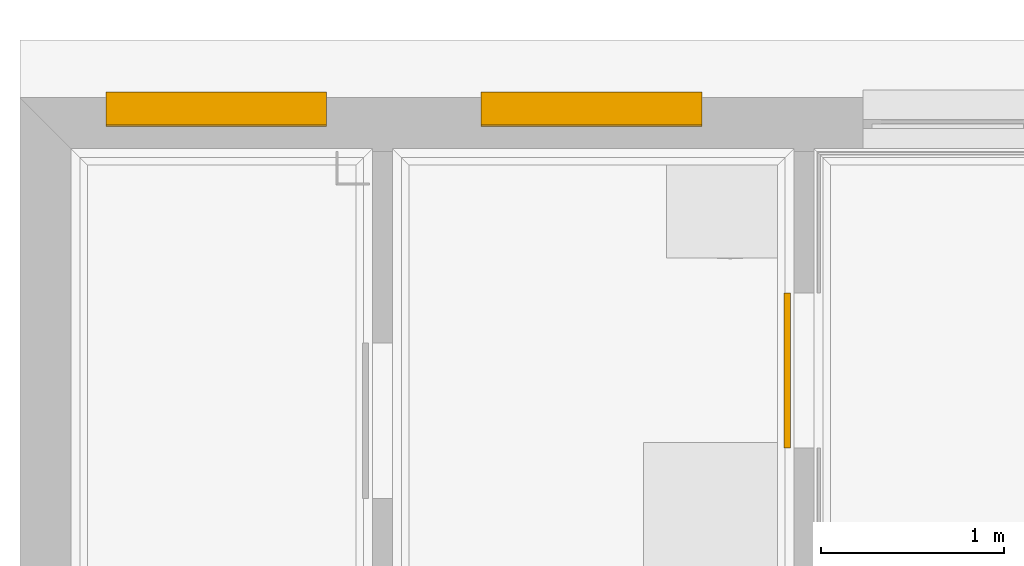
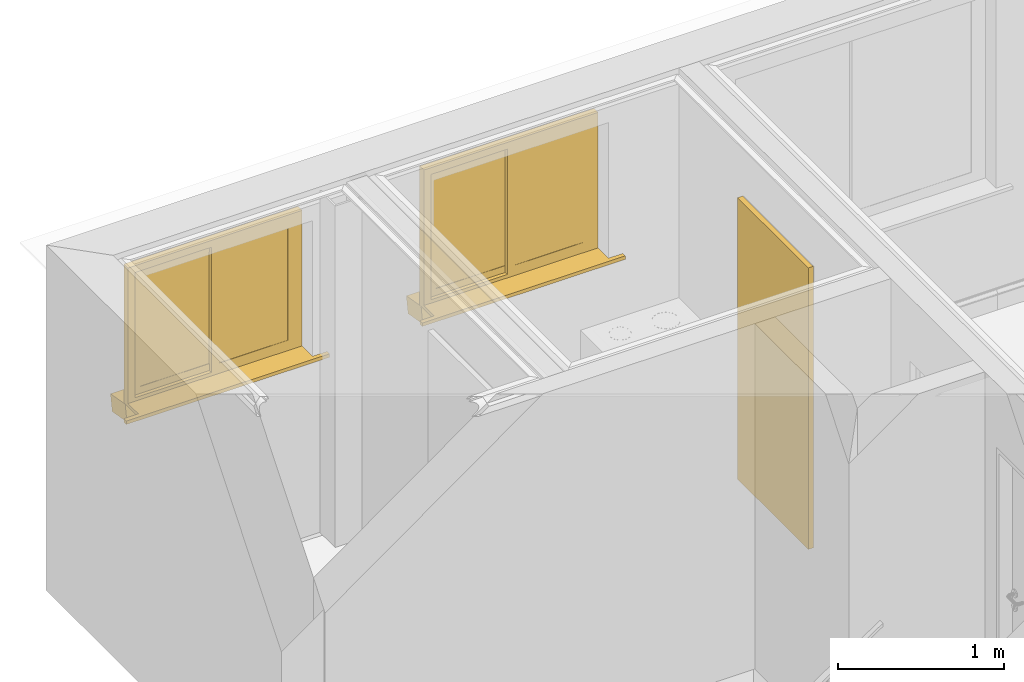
# One storey, part 6 of 18: 2 windows, 1 door.
"""IFC2X3 building model written with IfcOpenShell, lengths in millimetres."""

from ifc_helpers import new_model, entity, si_unit, converted_unit, money_unit, direction, frame, origin_with_axes, place, context, subcontext, project, spatial, faceted_brep, source, transform, mapped, material, material_list, type_object, element, save


model = new_model("IFC2X3")

# Units and contexts
model_context = context("Model", 3, precision=1e-05, world=origin_with_axes(), true_north=direction((0.0, 1.0)))
body_context = subcontext(model_context, "Body", "Model", "MODEL_VIEW")
ifc_project = project(units=[si_unit("LENGTHUNIT", "METRE", prefix="MILLI"), si_unit("AREAUNIT", "SQUARE_METRE"), si_unit("VOLUMEUNIT", "CUBIC_METRE"), converted_unit("PLANEANGLEUNIT", "DEGREE", entity("IfcPlaneAngleMeasure", 0.0174532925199), si_unit("PLANEANGLEUNIT", "RADIAN"), dimensions=[0, 0, 0, 0, 0, 0, 0]), si_unit("SOLIDANGLEUNIT", "STERADIAN"), money_unit("AUD"), si_unit("TIMEUNIT", "SECOND"), si_unit("MASSUNIT", "GRAM"), si_unit("THERMODYNAMICTEMPERATUREUNIT", "DEGREE_CELSIUS"), si_unit("LUMINOUSINTENSITYUNIT", "LUMEN")], contexts=[model_context])

# Site, building, storey
site_placement = place(None, origin_with_axes())
site = spatial("IfcSite", under=ifc_project, at=site_placement, Name="Lot 1. East Hills", CompositionType="ELEMENT")
building_placement = place(site_placement, origin_with_axes())
building = spatial("IfcBuilding", under=site, at=building_placement, Name="Proposed Units 7 & 8", CompositionType="ELEMENT")
storey_placement = place(building_placement, frame((0.0, 0.0, 5859.0), z_axis=(0.0, 0.0, 1.0), x_axis=(1.0, 0.0, 0.0)))
storey = spatial("IfcBuildingStorey", under=building, at=storey_placement, Name="Level 1", CompositionType="ELEMENT", Elevation=5859.0)

# Door
ifc_material_1 = material(Name="Empty Fill")
ifc_material_list_1 = material_list([ifc_material_1, ifc_material_1, ifc_material_1, ifc_material_1, ifc_material_1, ifc_material_1, ifc_material_1, ifc_material_1, ifc_material_1])
door_style = type_object("IfcDoorStyle", Name="D1 Sliding Ext 11", ConstructionType="NOTDEFINED", OperationType="SLIDING_TO_LEFT", ParameterTakesPrecedence=False, Sizeable=False)
shared_shape_1 = source(origin_with_axes(), body_context, "Body", "Brep", [
    faceted_brep([(-425.0, 40.0, 0.0), (425.0, 40.0, 0.0), (425.0, 5.0, 0.0), (-425.0, 5.0, 0.0), (-425.0, 40.0, 2067.0), (425.0, 40.0, 2067.0), (425.0, 5.0, 2067.0), (-425.0, 5.0, 2067.0)], [[[0, 1, 2, 3]], [[0, 4, 5, 1]], [[1, 5, 6, 2]], [[3, 2, 6, 7]], [[4, 0, 3, 7]], [[5, 4, 7, 6]]]),
])
door_placement = place(storey_placement, frame((4225.00441391, 3342.99988798, 0.0), z_axis=(0.0, 0.0, 1.0), x_axis=(0.0, 1.0, 0.0)))
element("IfcDoor", 1, at=door_placement, inside=storey, type_object=door_style, material=ifc_material_list_1, Name="11 D1 Sliding Ext 11 0.85 x 2.067 x 1 Door", OverallHeight=2067.0, OverallWidth=850.0, context=body_context, shape_type="MappedRepresentation", body=[
    mapped(shared_shape_1, transform((425.0, 0.0, 0.0))),
])

# Windows
ifc_material_2 = material(Name="air space")
ifc_material_list_2 = material_list([ifc_material_1, ifc_material_2, ifc_material_1, ifc_material_1, ifc_material_1, ifc_material_1, ifc_material_1, ifc_material_1, ifc_material_1, ifc_material_1])
window_style = type_object("IfcWindowStyle", Name="W2 Horizontal Slide 11", ConstructionType="NOTDEFINED", OperationType="DOUBLE_PANEL_VERTICAL", ParameterTakesPrecedence=False, Sizeable=False)
shared_shape_2 = source(origin_with_axes(), body_context, "Body", "Brep", [
    faceted_brep([(-605.0, -16.6666666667, 0.0), (605.0, -16.6666666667, 0.0), (605.0, 160.83778132, -31.2988233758), (-605.0, 160.83778132, -31.2988233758), (-605.0, -37.5044479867, -118.176930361), (605.0, -37.5044479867, -118.176930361), (605.0, 140.0, -149.475753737), (-605.0, 140.0, -149.475753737)], [[[0, 1, 2, 3]], [[4, 5, 1, 0]], [[1, 5, 6, 2]], [[3, 2, 6, 7]], [[0, 3, 7, 4]], [[7, 6, 5, 4]]]),
    faceted_brep([(605.0, -50.0, 0.0), (605.0, -50.0, 25.0), (605.0, -174.999998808, 25.0), (605.0, -174.999998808, 0.0), (-605.0, -50.0, 0.0), (-605.0, -50.0, 25.0), (-605.0, -174.999998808, 25.0), (-705.0, -174.999998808, 25.0), (-705.0, -204.999998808, 25.0), (705.0, -204.999998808, 25.0), (705.0, -174.999998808, 25.0), (705.0, -174.999998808, 0.0), (705.0, -204.999998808, 0.0), (-705.0, -204.999998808, 0.0), (-705.0, -174.999998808, 0.0), (-605.0, -174.999998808, 0.0)], [[[0, 1, 2, 3]], [[4, 5, 1, 0]], [[1, 5, 6, 7, 8, 9, 10, 2]], [[3, 2, 10, 11]], [[0, 3, 11, 12, 13, 14, 15, 4]], [[15, 6, 5, 4]], [[14, 7, 6, 15]], [[13, 8, 7, 14]], [[12, 9, 8, 13]], [[11, 10, 9, 12]]]),
    faceted_brep([(-555.0, 0.0, 50.0), (-555.0, 0.0, 970.0), (-555.0, -50.0, 970.0), (-555.0, -50.0, 50.0), (-605.0, 0.0, 50.0), (-605.0, 0.0, 970.0), (-605.0, -50.0, 970.0), (-605.0, -50.0, 50.0)], [[[0, 1, 2, 3]], [[0, 4, 5, 1]], [[1, 5, 6, 2]], [[3, 2, 6, 7]], [[4, 0, 3, 7]], [[5, 4, 7, 6]]]),
    faceted_brep([(605.0, 0.0, 50.0), (605.0, 0.0, 970.0), (605.0, -50.0, 970.0), (605.0, -50.0, 50.0), (555.0, 0.0, 50.0), (555.0, 0.0, 970.0), (555.0, -50.0, 970.0), (555.0, -50.0, 50.0)], [[[0, 1, 2, 3]], [[0, 4, 5, 1]], [[1, 5, 6, 2]], [[3, 2, 6, 7]], [[4, 0, 3, 7]], [[5, 4, 7, 6]]]),
    faceted_brep([(-605.0, 0.0, 0.0), (605.0, 0.0, 0.0), (605.0, -50.0, 0.0), (-605.0, -50.0, 0.0), (-605.0, 0.0, 50.0), (-555.0, 0.0, 50.0), (555.0, 0.0, 50.0), (605.0, 0.0, 50.0), (605.0, -50.0, 50.0), (555.0, -50.0, 50.0), (-555.0, -50.0, 50.0), (-605.0, -50.0, 50.0)], [[[0, 1, 2, 3]], [[0, 4, 5, 6, 7, 1]], [[1, 7, 8, 2]], [[3, 2, 8, 9, 10, 11]], [[4, 0, 3, 11]], [[5, 4, 11, 10]], [[6, 5, 10, 9]], [[7, 6, 9, 8]]]),
    faceted_brep([(-605.0, 0.0, 970.0), (-555.0, 0.0, 970.0), (-555.0, -50.0, 970.0), (-605.0, -50.0, 970.0), (-605.0, 0.0, 1020.0), (605.0, 0.0, 1020.0), (605.0, 0.0, 970.0), (555.0, 0.0, 970.0), (555.0, -50.0, 970.0), (605.0, -50.0, 970.0), (605.0, -50.0, 1020.0), (-605.0, -50.0, 1020.0)], [[[0, 1, 2, 3]], [[0, 4, 5, 6, 7, 1]], [[1, 7, 8, 2]], [[3, 2, 8, 9, 10, 11]], [[4, 0, 3, 11]], [[5, 4, 11, 10]], [[6, 5, 10, 9]], [[7, 6, 9, 8]]]),
    faceted_brep([(-505.0, 0.0, 100.0), (-505.0, 0.0, 920.0), (-505.0, -25.0, 920.0), (-505.0, -25.0, 100.0), (-555.0, 0.0, 100.0), (-555.0, 0.0, 920.0), (-555.0, -25.0, 920.0), (-555.0, -25.0, 100.0)], [[[0, 1, 2, 3]], [[0, 4, 5, 1]], [[1, 5, 6, 2]], [[3, 2, 6, 7]], [[4, 0, 3, 7]], [[5, 4, 7, 6]]]),
    faceted_brep([(25.0, 0.0, 100.0), (25.0, 0.0, 920.0), (25.0, -25.0, 920.0), (25.0, -25.0, 100.0), (-25.0, 0.0, 100.0), (-25.0, 0.0, 920.0), (-25.0, -25.0, 920.0), (-25.0, -25.0, 100.0)], [[[0, 1, 2, 3]], [[0, 4, 5, 1]], [[1, 5, 6, 2]], [[3, 2, 6, 7]], [[4, 0, 3, 7]], [[5, 4, 7, 6]]]),
    faceted_brep([(25.0, 0.0, 50.0), (25.0, 0.0, 100.0), (25.0, -25.0, 100.0), (25.0, -25.0, 50.0), (-555.0, 0.0, 50.0), (-555.0, 0.0, 100.0), (-505.0, 0.0, 100.0), (-25.0, 0.0, 100.0), (-25.0, -25.0, 100.0), (-505.0, -25.0, 100.0), (-555.0, -25.0, 100.0), (-555.0, -25.0, 50.0)], [[[0, 1, 2, 3]], [[0, 4, 5, 6, 7, 1]], [[1, 7, 8, 2]], [[3, 2, 8, 9, 10, 11]], [[4, 0, 3, 11]], [[5, 4, 11, 10]], [[6, 5, 10, 9]], [[7, 6, 9, 8]]]),
    faceted_brep([(-555.0, 0.0, 970.0), (-555.0, 0.0, 920.0), (-555.0, -25.0, 920.0), (-555.0, -25.0, 970.0), (25.0, 0.0, 970.0), (25.0, 0.0, 920.0), (-25.0, 0.0, 920.0), (-505.0, 0.0, 920.0), (-505.0, -25.0, 920.0), (-25.0, -25.0, 920.0), (25.0, -25.0, 920.0), (25.0, -25.0, 970.0)], [[[0, 1, 2, 3]], [[0, 4, 5, 6, 7, 1]], [[1, 7, 8, 2]], [[3, 2, 8, 9, 10, 11]], [[4, 0, 3, 11]], [[5, 4, 11, 10]], [[6, 5, 10, 9]], [[7, 6, 9, 8]]]),
    faceted_brep([(-505.0, -2.5, 100.0), (-25.0, -2.5, 100.0), (-25.0, -22.5, 100.0), (-505.0, -22.5, 100.0), (-505.0, -2.5, 920.0), (-25.0, -2.5, 920.0), (-25.0, -22.5, 920.0), (-505.0, -22.5, 920.0)], [[[0, 1, 2, 3]], [[0, 4, 5, 1]], [[1, 5, 6, 2]], [[3, 2, 6, 7]], [[4, 0, 3, 7]], [[5, 4, 7, 6]]]),
    faceted_brep([(25.0, -25.0, 100.0), (25.0, -25.0, 920.0), (25.0, -50.0, 920.0), (25.0, -50.0, 100.0), (-25.0, -25.0, 100.0), (-25.0, -25.0, 920.0), (-25.0, -50.0, 920.0), (-25.0, -50.0, 100.0)], [[[0, 1, 2, 3]], [[0, 4, 5, 1]], [[1, 5, 6, 2]], [[3, 2, 6, 7]], [[4, 0, 3, 7]], [[5, 4, 7, 6]]]),
    faceted_brep([(555.0, -25.0, 100.0), (555.0, -25.0, 920.0), (555.0, -50.0, 920.0), (555.0, -50.0, 100.0), (505.0, -25.0, 100.0), (505.0, -25.0, 920.0), (505.0, -50.0, 920.0), (505.0, -50.0, 100.0)], [[[0, 1, 2, 3]], [[0, 4, 5, 1]], [[1, 5, 6, 2]], [[3, 2, 6, 7]], [[4, 0, 3, 7]], [[5, 4, 7, 6]]]),
    faceted_brep([(555.0, -25.0, 50.0), (555.0, -25.0, 100.0), (555.0, -50.0, 100.0), (555.0, -50.0, 50.0), (-25.0, -25.0, 50.0), (-25.0, -25.0, 100.0), (25.0, -25.0, 100.0), (505.0, -25.0, 100.0), (505.0, -50.0, 100.0), (25.0, -50.0, 100.0), (-25.0, -50.0, 100.0), (-25.0, -50.0, 50.0)], [[[0, 1, 2, 3]], [[0, 4, 5, 6, 7, 1]], [[1, 7, 8, 2]], [[3, 2, 8, 9, 10, 11]], [[4, 0, 3, 11]], [[5, 4, 11, 10]], [[6, 5, 10, 9]], [[7, 6, 9, 8]]]),
    faceted_brep([(-25.0, -25.0, 970.0), (-25.0, -25.0, 920.0), (-25.0, -50.0, 920.0), (-25.0, -50.0, 970.0), (555.0, -25.0, 970.0), (555.0, -25.0, 920.0), (505.0, -25.0, 920.0), (25.0, -25.0, 920.0), (25.0, -50.0, 920.0), (505.0, -50.0, 920.0), (555.0, -50.0, 920.0), (555.0, -50.0, 970.0)], [[[0, 1, 2, 3]], [[0, 4, 5, 6, 7, 1]], [[1, 7, 8, 2]], [[3, 2, 8, 9, 10, 11]], [[4, 0, 3, 11]], [[5, 4, 11, 10]], [[6, 5, 10, 9]], [[7, 6, 9, 8]]]),
    faceted_brep([(25.0, -27.5, 100.0), (505.0, -27.5, 100.0), (505.0, -47.5, 100.0), (25.0, -47.5, 100.0), (25.0, -27.5, 920.0), (505.0, -27.5, 920.0), (505.0, -47.5, 920.0), (25.0, -47.5, 920.0)], [[[0, 1, 2, 3]], [[0, 4, 5, 1]], [[1, 5, 6, 2]], [[3, 2, 6, 7]], [[4, 0, 3, 7]], [[5, 4, 7, 6]]]),
])
for number, where, z_axis, x_axis, name in (
    (2, (2525.0, 5263.0, 1286.0), (0.0, 0.0, 1.0), (1.0, 0.0, 0.0), "W001 W2 Horizontal Slide 11 1.21 x 1.02 Window"),
    (3, (469.964301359, 5263.0, 1286.0), (0.0, 0.0, 1.0), (1.0, 0.0, 0.0), "W001 W2 Horizontal Slide 11 1.21 x 1.02 Window"),
):
    element("IfcWindow", number, at=place(storey_placement, frame(where, z_axis=z_axis, x_axis=x_axis)), inside=storey, type_object=window_style, material=ifc_material_list_2, Name=name, OverallHeight=1020.0, OverallWidth=1210.0, context=body_context, shape_type="MappedRepresentation", body=[
        mapped(shared_shape_2, transform((605.0, -120.0, 0.0))),
    ])

save(model, "model.ifc")
